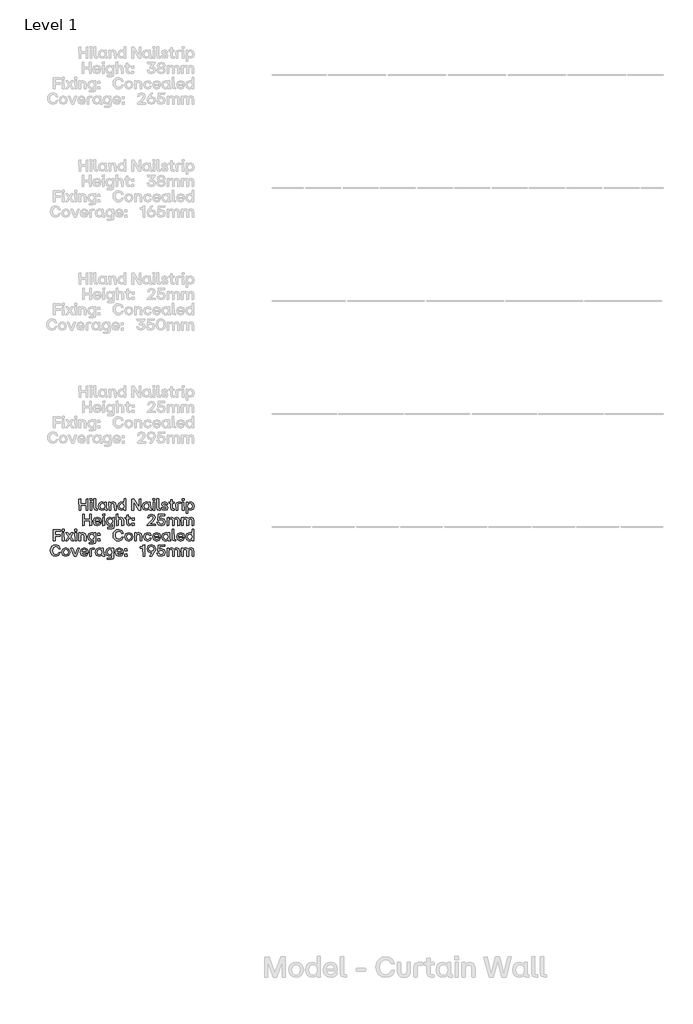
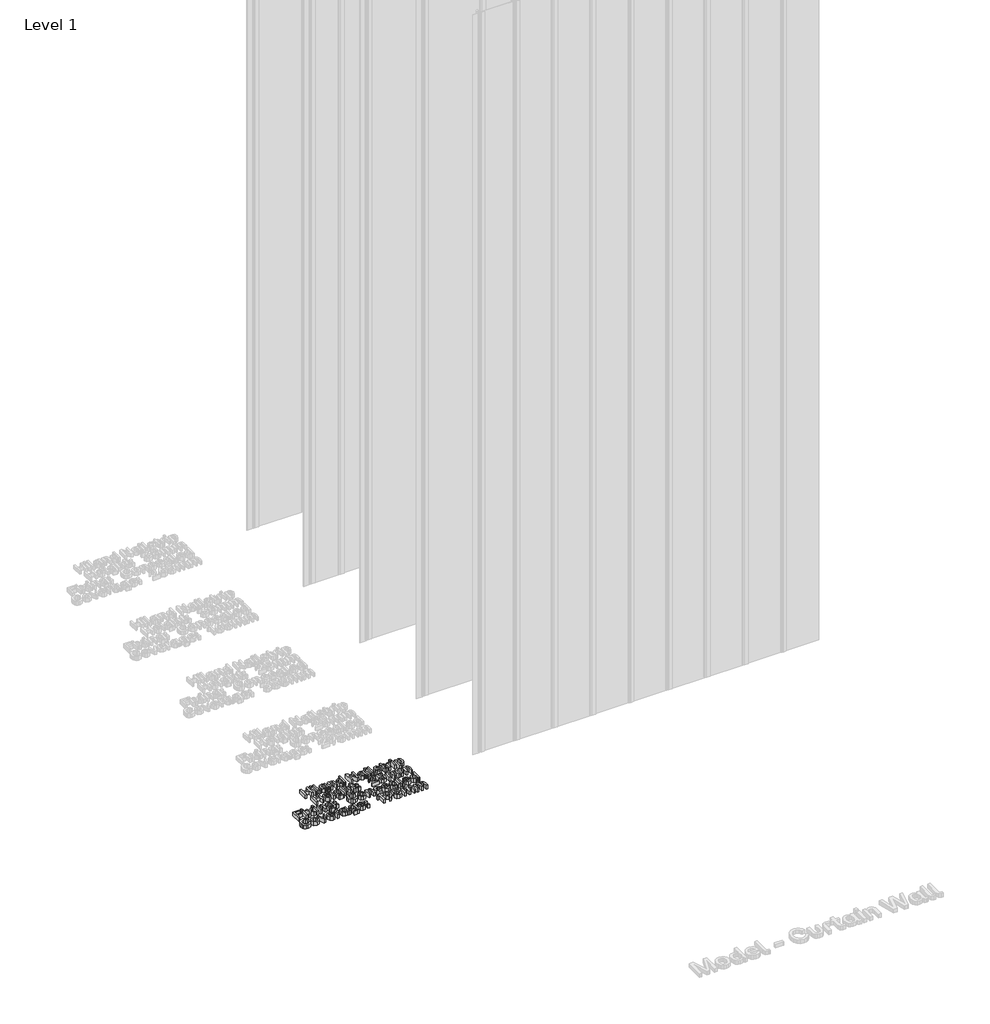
# One storey, part 10 of 64: 1 proxy.
"""IFC4 building model written with IfcOpenShell, lengths in millimetres."""

from ifc_helpers import new_model, si_unit, origin, origin_with_axes, place, context, project, spatial, polyline, outline, extrude, element, save

model = new_model("IFC4")

# Units and contexts
model_context = context("Model", 3, world=origin())
ifc_project = project(units=[si_unit("LENGTHUNIT", "METRE", prefix="MILLI")], contexts=[model_context])

# Site, building, storey
site = spatial("IfcSite", under=ifc_project)
building = spatial("IfcBuilding", under=site)
storey = spatial("IfcBuildingStorey", under=building, Name="Level 1", Elevation=0.0)

# Proxy
placement = place(None, origin())
element("IfcBuildingElementProxy", 1, Name="50mm", ObjectType="50mm", at=placement, inside=storey, context=model_context, shape_type="SweptSolid", body=[
    extrude(outline(polyline([(-779.9316481, -4433.5188866), (-780.6289799, -4411.5808277), (-804.4777279, -4411.5808277), (-804.4777279, -4432.8215548), (-811.9810183, -4433.5188866), (-812.7062434, -4384.2454206), (-805.2168997, -4383.5201955), (-804.4777279, -4404.6075096), (-780.6289799, -4404.6075096), (-780.6289799, -4384.2454206), (-773.1396362, -4383.5201955), (-772.4423044, -4432.8215548), (-779.9316481, -4433.5188866)])), origin_with_axes(), (0.0, 0.0, 1.0), 20.0),
    extrude(outline(polyline([(-762.3449397, -4433.5188866), (-763.0701648, -4397.8154977), (-755.8597538, -4397.1181659), (-755.162422, -4432.8215548), (-762.3449397, -4433.5188866)])), origin_with_axes(), (0.0, 0.0, 1.0), 20.0),
    extrude(outline(polyline([(-763.2793643, -4390.4516737), (-763.6280302, -4382.4044646), (-755.2321552, -4381.6652929), (-754.4929835, -4390.1030078), (-763.2793643, -4390.4516737)])), origin_with_axes(), (0.0, 0.0, 1.0), 20.0),
    extrude(outline(polyline([(-735.7626509, -4433.5188866), (-743.4611942, -4430.8690257), (-746.1110551, -4423.1565359), (-746.1110551, -4382.8228637), (-738.9006441, -4382.083692), (-738.2033123, -4427.2429003), (-731.5368201, -4427.2429003), (-730.8394883, -4432.8215548), (-735.7626509, -4433.5188866)])), origin_with_axes(), (0.0, 0.0, 1.0), 20.0),
    extrude(outline(polyline([(-710.6726522, -4433.9372857), (-722.4436133, -4428.8955767), (-726.8228571, -4415.3882594), (-722.4436133, -4401.7484491), (-710.6726522, -4396.6579269), (-704.0549733, -4398.2617901), (-699.0690509, -4402.6549805), (-698.7482782, -4397.8154977), (-691.5657605, -4397.1181659), (-690.8405354, -4427.2429003), (-686.8936374, -4427.2429003), (-686.1963056, -4432.8215548), (-692.1933592, -4433.5188866), (-696.848049, -4432.2113895), (-698.3996123, -4428.288898), (-703.7551206, -4432.3334225), (-710.6726522, -4433.9372857)]), holes=[polyline([(-718.7617013, -4415.3882594), (-716.0072406, -4424.2792401), (-708.4830304, -4427.521833), (-701.1192064, -4424.2931867), (-698.4693455, -4415.3882594), (-701.1401263, -4406.392679), (-708.4830304, -4403.1152195), (-716.0072406, -4406.392679), (-718.7617013, -4415.3882594)])]), origin_with_axes(), (0.0, 0.0, 1.0), 20.0),
    extrude(outline(polyline([(-679.3345605, -4433.5188866), (-680.0597856, -4397.8154977), (-673.1980405, -4397.1181659), (-672.5007087, -4402.6549805), (-667.3369666, -4398.1571903), (-660.7158011, -4396.6579269), (-651.1553819, -4400.8419178), (-647.8430558, -4413.0870644), (-647.8430558, -4432.8215548), (-655.0674134, -4433.5188866), (-655.7926384, -4413.0870644), (-657.7451675, -4405.7092939), (-663.9165541, -4403.3941522), (-670.1437272, -4405.7441604), (-672.1520428, -4413.0870644), (-672.1520428, -4432.8215548), (-679.3345605, -4433.5188866)])), origin_with_axes(), (0.0, 0.0, 1.0), 20.0),
    extrude(outline(polyline([(-624.9845189, -4433.9372857), (-636.7554799, -4428.8955767), (-641.1347237, -4415.3882594), (-636.7554799, -4401.7484491), (-624.9845189, -4396.6579269), (-618.36684, -4398.2617901), (-613.3809175, -4402.6549805), (-613.0601448, -4382.8228637), (-605.8776272, -4382.083692), (-605.1524021, -4432.8215548), (-612.0141471, -4433.5188866), (-612.7114789, -4428.0099653), (-618.0669873, -4432.3334225), (-624.9845189, -4433.9372857)]), holes=[polyline([(-633.0735679, -4415.3882594), (-630.3191073, -4424.2792401), (-622.794897, -4427.521833), (-615.431073, -4424.2931867), (-612.7812121, -4415.3882594), (-615.451993, -4406.392679), (-622.794897, -4403.1152195), (-630.3191073, -4406.392679), (-633.0735679, -4415.3882594)])]), origin_with_axes(), (0.0, 0.0, 1.0), 20.0),
    extrude(outline(polyline([(-578.1238209, -4433.5188866), (-578.849046, -4384.2454206), (-569.992932, -4383.5201955), (-546.7020494, -4420.7856077), (-546.4231166, -4384.2454206), (-539.2127057, -4383.5201955), (-538.5153739, -4432.8215548), (-547.329648, -4433.5188866), (-570.6205306, -4396.2395278), (-570.8994633, -4432.8215548), (-578.1238209, -4433.5188866)])), origin_with_axes(), (0.0, 0.0, 1.0), 20.0),
    extrude(outline(polyline([(-515.196598, -4433.9372857), (-526.967559, -4428.8955767), (-531.3468028, -4415.3882594), (-526.967559, -4401.7484491), (-515.196598, -4396.6579269), (-508.5789191, -4398.2617901), (-503.5929966, -4402.6549805), (-503.272224, -4397.8154977), (-496.0897063, -4397.1181659), (-495.3644812, -4427.2429003), (-491.4175831, -4427.2429003), (-490.7202513, -4432.8215548), (-496.7173049, -4433.5188866), (-501.3719948, -4432.2113895), (-502.923558, -4428.288898), (-508.2790664, -4432.3334225), (-515.196598, -4433.9372857)]), holes=[polyline([(-523.285647, -4415.3882594), (-520.5311864, -4424.2792401), (-513.0069761, -4427.521833), (-505.6431521, -4424.2931867), (-502.9932912, -4415.3882594), (-505.6640721, -4406.392679), (-513.0069761, -4403.1152195), (-520.5311864, -4406.392679), (-523.285647, -4415.3882594)])]), origin_with_axes(), (0.0, 0.0, 1.0), 20.0),
    extrude(outline(polyline([(-484.7929309, -4390.4516737), (-485.1415968, -4382.4044646), (-476.7457217, -4381.6652929), (-476.00655, -4390.1030078), (-484.7929309, -4390.4516737)])), origin_with_axes(), (0.0, 0.0, 1.0), 20.0),
    extrude(outline(polyline([(-483.8585062, -4433.5188866), (-484.5837313, -4397.8154977), (-477.3733204, -4397.1181659), (-476.6759885, -4432.8215548), (-483.8585062, -4433.5188866)])), origin_with_axes(), (0.0, 0.0, 1.0), 20.0),
    extrude(outline(polyline([(-457.2762175, -4433.5188866), (-464.9747607, -4430.8690257), (-467.6246216, -4423.1565359), (-467.6246216, -4382.8228637), (-460.4142106, -4382.083692), (-459.7168788, -4427.2429003), (-453.0503867, -4427.2429003), (-452.3530549, -4432.8215548), (-457.2762175, -4433.5188866)])), origin_with_axes(), (0.0, 0.0, 1.0), 20.0),
    extrude(outline(polyline([(-432.716191, -4433.9372857), (-443.4481276, -4430.9875721), (-447.9180245, -4422.5289372), (-440.9725996, -4421.7339789), (-437.890393, -4426.5455685), (-432.716191, -4427.8007657), (-428.2532673, -4426.6153017), (-426.579671, -4423.4354686), (-427.7790817, -4420.5764081), (-431.8375529, -4419.0841181), (-436.9280751, -4418.1775867), (-444.6545116, -4414.6351411), (-447.1509595, -4407.5363032), (-443.4899675, -4399.6215871), (-433.6227223, -4396.6579269), (-423.9298101, -4399.4123876), (-419.7039793, -4407.2294772), (-426.6494042, -4408.0244355), (-429.3968915, -4403.8613645), (-433.6227223, -4402.7944469), (-437.8764464, -4403.8962311), (-439.3408432, -4407.0900108), (-438.2948455, -4409.8584181), (-434.4874138, -4411.3716282), (-429.0482256, -4412.3897326), (-421.0358831, -4415.8763917), (-418.7695547, -4423.0170695), (-422.3956801, -4431.1130919), (-432.716191, -4433.9372857)])), origin_with_axes(), (0.0, 0.0, 1.0), 20.0),
    extrude(outline(polyline([(-396.9570155, -4433.5188866), (-404.6695054, -4430.8690257), (-407.3193663, -4423.1565359), (-407.3193663, -4403.3941522), (-413.5256194, -4403.3941522), (-414.2508445, -4397.8154977), (-407.3193663, -4397.1181659), (-407.3193663, -4387.104481), (-400.0950087, -4386.3792559), (-399.3976769, -4397.1181659), (-390.611296, -4397.1181659), (-389.8860709, -4402.6549805), (-399.3976769, -4403.3941522), (-399.3976769, -4427.2429003), (-390.611296, -4427.2429003), (-389.8860709, -4432.8215548), (-396.9570155, -4433.5188866)])), origin_with_axes(), (0.0, 0.0, 1.0), 20.0),
    extrude(outline(polyline([(-382.480407, -4433.5188866), (-383.1777388, -4407.4386768), (-380.5278779, -4399.7471068), (-372.8293347, -4397.1181659), (-362.6761835, -4397.1181659), (-361.9788517, -4403.1152195), (-375.2699961, -4403.8125513), (-375.2699961, -4432.8215548), (-382.480407, -4433.5188866)])), origin_with_axes(), (0.0, 0.0, 1.0), 20.0),
    extrude(outline(polyline([(-354.4337214, -4433.5188866), (-355.1589465, -4397.8154977), (-347.9485356, -4397.1181659), (-347.2512038, -4432.8215548), (-354.4337214, -4433.5188866)])), origin_with_axes(), (0.0, 0.0, 1.0), 20.0),
    extrude(outline(polyline([(-355.3681461, -4390.4516737), (-355.716812, -4382.4044646), (-347.3209369, -4381.6652929), (-346.5817652, -4390.1030078), (-355.3681461, -4390.4516737)])), origin_with_axes(), (0.0, 0.0, 1.0), 20.0),
    extrude(outline(polyline([(-337.4746117, -4447.0750171), (-338.1998368, -4397.8154977), (-331.3380917, -4397.1181659), (-330.6407599, -4402.5852473), (-325.2852516, -4398.2617901), (-318.36772, -4396.6579269), (-306.596759, -4401.7135826), (-302.2175152, -4415.2487931), (-306.596759, -4428.8607101), (-318.36772, -4433.9372857), (-324.9853989, -4432.3334225), (-329.9713214, -4427.9402321), (-330.292094, -4446.3776853), (-337.4746117, -4447.0750171)]), holes=[polyline([(-330.5710268, -4415.2487931), (-327.9002459, -4424.2443735), (-320.5573419, -4427.521833), (-313.0331316, -4424.2443735), (-310.2786709, -4415.2487931), (-313.0331316, -4406.3578124), (-320.5573419, -4403.1152195), (-327.9211659, -4406.3368925), (-330.5710268, -4415.2487931)])]), origin_with_axes(), (0.0, 0.0, 1.0), 20.0),
    extrude(outline(polyline([(-763.8651231, -4501.3705811), (-764.5624549, -4479.4325222), (-788.4112029, -4479.4325222), (-788.4112029, -4500.6732493), (-795.9144933, -4501.3705811), (-796.6397184, -4452.0971151), (-789.1503747, -4451.37189), (-788.4112029, -4472.459204), (-764.5624549, -4472.459204), (-764.5624549, -4452.0971151), (-757.0731112, -4451.37189), (-756.3757794, -4500.6732493), (-763.8651231, -4501.3705811)])), origin_with_axes(), (0.0, 0.0, 1.0), 20.0),
    extrude(outline(polyline([(-730.7279152, -4501.7889802), (-744.1306327, -4496.7472711), (-749.1374751, -4483.2399539), (-744.1515527, -4469.586197), (-730.7279152, -4464.5096214), (-718.447902, -4469.5164638), (-713.9501118, -4483.1702207), (-713.9501118, -4485.0809099), (-741.0065862, -4485.8200816), (-737.9383262, -4492.8631329), (-730.7279152, -4495.3735275), (-724.9400612, -4494.0974102), (-721.9415344, -4490.520098), (-714.8566431, -4489.9343393), (-719.5148197, -4498.6998002), (-730.7279152, -4501.7889802)]), holes=[polyline([(-740.936853, -4480.0322275), (-721.7323348, -4480.0322275), (-724.3752224, -4473.3866554), (-730.7279152, -4470.966914), (-737.8197798, -4473.2681089), (-740.936853, -4480.0322275)])]), origin_with_axes(), (0.0, 0.0, 1.0), 20.0),
    extrude(outline(polyline([(-707.0465268, -4458.3033682), (-707.3951927, -4450.2561591), (-698.9993177, -4449.5169873), (-698.2601459, -4457.9547023), (-707.0465268, -4458.3033682)])), origin_with_axes(), (0.0, 0.0, 1.0), 20.0),
    extrude(outline(polyline([(-706.1121022, -4501.3705811), (-706.8373273, -4465.6671922), (-699.6269163, -4464.9698603), (-698.9295845, -4500.6732493), (-706.1121022, -4501.3705811)])), origin_with_axes(), (0.0, 0.0, 1.0), 20.0),
    extrude(outline(polyline([(-684.4390294, -4514.9267115), (-685.1782011, -4509.348057), (-663.937474, -4508.6507252), (-663.937474, -4495.7919266), (-669.2441691, -4500.185117), (-675.8618481, -4501.7889802), (-687.6328091, -4496.7124045), (-692.0120529, -4483.1004875), (-687.6328091, -4469.565277), (-675.8618481, -4464.5096214), (-668.9443165, -4466.1134845), (-663.8677409, -4470.4369418), (-663.5888081, -4465.6671922), (-656.7549563, -4464.9698603), (-656.0297313, -4504.9269733), (-658.609859, -4512.3675038), (-666.0294695, -4514.9267115), (-684.4390294, -4514.9267115)]), holes=[polyline([(-683.9508971, -4483.1004875), (-681.1964364, -4492.0960679), (-673.6722262, -4495.3735275), (-666.3293222, -4492.0960679), (-663.6585413, -4483.1004875), (-666.3084022, -4474.1885869), (-673.6722262, -4470.966914), (-681.1964364, -4474.2095069), (-683.9508971, -4483.1004875)])]), origin_with_axes(), (0.0, 0.0, 1.0), 20.0),
    extrude(outline(polyline([(-646.3089258, -4501.3705811), (-647.0341508, -4450.6745581), (-639.8237399, -4449.9353864), (-639.1264081, -4470.2277422), (-634.0393725, -4465.9391516), (-627.6901663, -4464.5096214), (-618.1297471, -4468.6936122), (-614.817421, -4480.9387589), (-614.817421, -4500.6732493), (-622.0417786, -4501.3705811), (-622.7670037, -4480.9387589), (-624.7195328, -4473.5609883), (-630.8909193, -4471.2458467), (-637.1180924, -4473.5958549), (-639.1264081, -4480.9387589), (-639.1264081, -4500.6732493), (-646.3089258, -4501.3705811)])), origin_with_axes(), (0.0, 0.0, 1.0), 20.0),
    extrude(outline(polyline([(-591.540485, -4501.3705811), (-599.2529749, -4498.7207202), (-601.9028358, -4491.0082303), (-601.9028358, -4471.2458467), (-608.109089, -4471.2458467), (-608.834314, -4465.6671922), (-601.9028358, -4464.9698603), (-601.9028358, -4454.9561755), (-594.6784782, -4454.2309504), (-593.9811464, -4464.9698603), (-585.1947655, -4464.9698603), (-584.4695404, -4470.506675), (-593.9811464, -4471.2458467), (-593.9811464, -4495.0945947), (-585.1947655, -4495.0945947), (-584.4695404, -4500.6732493), (-591.540485, -4501.3705811)])), origin_with_axes(), (0.0, 0.0, 1.0), 20.0),
    extrude(outline(polyline([(-577.0638766, -4477.7310326), (-577.7612084, -4468.1078535), (-568.2774957, -4467.3686818), (-567.5522706, -4477.0337007), (-577.0638766, -4477.7310326)])), origin_with_axes(), (0.0, 0.0, 1.0), 20.0),
    extrude(outline(polyline([(-577.4125425, -4501.0219152), (-577.7612084, -4491.747402), (-568.2774957, -4491.0082303), (-567.5522706, -4500.6732493), (-577.4125425, -4501.0219152)])), origin_with_axes(), (0.0, 0.0, 1.0), 20.0),
    extrude(outline(polyline([(-509.5761036, -4501.3705811), (-510.3013286, -4496.5868848), (-492.9377665, -4480.590093), (-485.7901154, -4472.6753769), (-483.8027197, -4465.3882594), (-485.783142, -4459.7084918), (-491.7244091, -4457.8152359), (-498.5931275, -4459.8932847), (-501.4452146, -4466.4621504), (-508.8787717, -4467.1594822), (-504.2903284, -4454.9631488), (-491.7244091, -4450.9534909), (-479.8976615, -4454.8236824), (-475.5742043, -4465.3882594), (-478.2589318, -4475.1648515), (-487.4288451, -4485.5690422), (-496.8846645, -4494.0764903), (-474.1516474, -4494.355423), (-473.4543156, -4500.6732493), (-509.5761036, -4501.3705811)])), origin_with_axes(), (0.0, 0.0, 1.0), 20.0),
    extrude(outline(polyline([(-448.1969572, -4501.7889802), (-461.3974485, -4498.0931215), (-467.2062225, -4487.3821049), (-459.8423985, -4486.5871466), (-455.634001, -4493.0200326), (-448.1969572, -4494.9551284), (-440.7912934, -4492.2704009), (-438.197219, -4484.6625108), (-440.7773467, -4477.3614467), (-448.3364236, -4474.8719721), (-458.6987744, -4478.8049235), (-463.5382572, -4478.5259908), (-462.4922594, -4452.0971151), (-432.8556573, -4451.37189), (-432.1304322, -4457.6757696), (-455.8397139, -4458.3731014), (-456.6346722, -4471.0366471), (-451.4604701, -4468.8400519), (-445.7562959, -4468.0381203), (-434.2015077, -4472.4661774), (-429.9965969, -4484.6625108), (-434.8081864, -4497.27027), (-448.1969572, -4501.7889802)])), origin_with_axes(), (0.0, 0.0, 1.0), 20.0),
    extrude(outline(polyline([(-421.3775756, -4501.3705811), (-422.1028007, -4465.6671922), (-415.2410557, -4464.9698603), (-414.5437239, -4470.506675), (-409.5578014, -4466.0088848), (-403.1074821, -4464.5096214), (-396.8210358, -4466.0088848), (-392.605665, -4470.506675), (-386.7829443, -4466.0646713), (-379.5376668, -4464.5096214), (-370.2631536, -4468.6796656), (-367.0554273, -4480.9387589), (-367.0554273, -4500.6732493), (-374.2658383, -4501.3705811), (-374.9631701, -4480.9387589), (-376.845966, -4473.5609883), (-382.8151263, -4471.2458467), (-388.7215268, -4473.5958549), (-390.6252426, -4480.9387589), (-390.6252426, -4500.6732493), (-397.8356536, -4501.3705811), (-398.5329854, -4480.9387589), (-400.4018347, -4473.5609883), (-406.3152085, -4471.2458467), (-412.2913421, -4473.5958549), (-414.195058, -4480.9387589), (-414.195058, -4500.6732493), (-421.3775756, -4501.3705811)])), origin_with_axes(), (0.0, 0.0, 1.0), 20.0),
    extrude(outline(polyline([(-358.0040603, -4501.3705811), (-358.7292854, -4465.6671922), (-351.8675404, -4464.9698603), (-351.1702086, -4470.506675), (-346.1842861, -4466.0088848), (-339.7339668, -4464.5096214), (-333.4475205, -4466.0088848), (-329.2321497, -4470.506675), (-323.409429, -4466.0646713), (-316.1641515, -4464.5096214), (-306.8896383, -4468.6796656), (-303.681912, -4480.9387589), (-303.681912, -4500.6732493), (-310.8923229, -4501.3705811), (-311.5896548, -4480.9387589), (-313.4724507, -4473.5609883), (-319.441611, -4471.2458467), (-325.3480115, -4473.5958549), (-327.2517273, -4480.9387589), (-327.2517273, -4500.6732493), (-334.4621383, -4501.3705811), (-335.1594701, -4480.9387589), (-337.0283194, -4473.5609883), (-342.9416931, -4471.2458467), (-348.9178268, -4473.5958549), (-350.8215426, -4480.9387589), (-350.8215426, -4500.6732493), (-358.0040603, -4501.3705811)])), origin_with_axes(), (0.0, 0.0, 1.0), 20.0),
    extrude(outline(polyline([(-925.3392781, -4569.2222755), (-926.0645031, -4519.9488095), (-894.4753719, -4519.2235844), (-893.7780401, -4525.527464), (-917.8359877, -4526.2247958), (-917.8359877, -4541.287163), (-895.9118755, -4541.287163), (-895.2145437, -4547.5631494), (-917.8359877, -4548.3023211), (-917.8359877, -4568.5249437), (-925.3392781, -4569.2222755)])), origin_with_axes(), (0.0, 0.0, 1.0), 20.0),
    extrude(outline(polyline([(-885.5216314, -4569.2222755), (-886.2468565, -4533.5188866), (-879.0364456, -4532.8215548), (-878.3391137, -4568.5249437), (-885.5216314, -4569.2222755)])), origin_with_axes(), (0.0, 0.0, 1.0), 20.0),
    extrude(outline(polyline([(-886.4560561, -4526.1550627), (-886.804722, -4518.1078535), (-878.4088469, -4517.3686818), (-877.6696752, -4525.8063967), (-886.4560561, -4526.1550627)])), origin_with_axes(), (0.0, 0.0, 1.0), 20.0),
    extrude(outline(polyline([(-871.4215821, -4569.2222755), (-858.6604099, -4550.7429824), (-870.8637167, -4533.658353), (-862.8722941, -4532.8215548), (-854.0859132, -4544.815662), (-845.8573978, -4533.2399539), (-837.7404555, -4532.8215548), (-849.3440569, -4549.9340775), (-836.303952, -4568.3436374), (-844.2953746, -4569.2222755), (-854.0161801, -4555.7916648), (-863.2906932, -4568.8038764), (-871.4215821, -4569.2222755)])), origin_with_axes(), (0.0, 0.0, 1.0), 20.0),
    extrude(outline(polyline([(-829.2887939, -4569.2222755), (-830.014019, -4533.5188866), (-822.803608, -4532.8215548), (-822.1062762, -4568.5249437), (-829.2887939, -4569.2222755)])), origin_with_axes(), (0.0, 0.0, 1.0), 20.0),
    extrude(outline(polyline([(-830.2232185, -4526.1550627), (-830.5718844, -4518.1078535), (-822.1760094, -4517.3686818), (-821.4368377, -4525.8063967), (-830.2232185, -4526.1550627)])), origin_with_axes(), (0.0, 0.0, 1.0), 20.0),
    extrude(outline(polyline([(-812.3296842, -4569.2222755), (-813.0549093, -4533.5188866), (-806.1931642, -4532.8215548), (-805.4958324, -4538.3583694), (-800.3320903, -4533.8605792), (-793.7109247, -4532.3613158), (-784.1505056, -4536.5453067), (-780.8381794, -4548.7904534), (-780.8381794, -4568.5249437), (-788.062537, -4569.2222755), (-788.7877621, -4548.7904534), (-790.7402912, -4541.4126828), (-796.9116778, -4539.0975411), (-803.1388509, -4541.4475493), (-805.1471665, -4548.7904534), (-805.1471665, -4568.5249437), (-812.3296842, -4569.2222755)])), origin_with_axes(), (0.0, 0.0, 1.0), 20.0),
    extrude(outline(polyline([(-766.5568239, -4582.778406), (-767.2959956, -4577.1997515), (-746.0552685, -4576.5024197), (-746.0552685, -4563.643621), (-751.3619636, -4568.0368114), (-757.9796426, -4569.6406746), (-769.7506036, -4564.564099), (-774.1298474, -4550.952182), (-769.7506036, -4537.4169715), (-757.9796426, -4532.3613158), (-751.0621109, -4533.965179), (-745.9855353, -4538.2886362), (-745.7066026, -4533.5188866), (-738.8727508, -4532.8215548), (-738.1475257, -4572.7786678), (-740.7276535, -4580.2191982), (-748.147264, -4582.778406), (-766.5568239, -4582.778406)]), holes=[polyline([(-766.0686916, -4550.952182), (-763.3142309, -4559.9477624), (-755.7900207, -4563.2252219), (-748.4471166, -4559.9477624), (-745.7763358, -4550.952182), (-748.4261967, -4542.0402814), (-755.7900207, -4538.8186084), (-763.3142309, -4542.0612013), (-766.0686916, -4550.952182)])]), origin_with_axes(), (0.0, 0.0, 1.0), 20.0),
    extrude(outline(polyline([(-728.8032794, -4545.582727), (-729.5006112, -4535.959548), (-720.0168986, -4535.2203762), (-719.2916735, -4544.8853952), (-728.8032794, -4545.582727)])), origin_with_axes(), (0.0, 0.0, 1.0), 20.0),
    extrude(outline(polyline([(-729.1519453, -4568.8736096), (-729.5006112, -4559.5990965), (-720.0168986, -4558.8599248), (-719.2916735, -4568.5249437), (-729.1519453, -4568.8736096)])), origin_with_axes(), (0.0, 0.0, 1.0), 20.0),
    extrude(outline(polyline([(-637.0483593, -4569.6406746), (-647.0550708, -4567.9269817), (-654.7605874, -4562.7859029), (-659.6767766, -4554.7160305), (-661.3155064, -4544.2159567), (-659.66283, -4533.8919591), (-654.7048008, -4525.7924501), (-646.9853376, -4520.5520015), (-637.0483593, -4518.8051853), (-622.8716035, -4523.4215219), (-615.9192053, -4535.7085085), (-623.2411893, -4536.5174134), (-628.4049314, -4528.3272513), (-637.0483593, -4525.8063967), (-648.7077472, -4530.743506), (-652.9475246, -4544.2159567), (-648.7286672, -4557.7999804), (-637.0483593, -4562.6673565), (-628.2340851, -4560.1813685), (-623.5480153, -4552.7234048), (-616.1284048, -4552.0679129), (-622.5926707, -4565.0382846), (-637.0483593, -4569.6406746)])), origin_with_axes(), (0.0, 0.0, 1.0), 20.0),
    extrude(outline(polyline([(-591.693898, -4569.6406746), (-604.8525494, -4564.5152858), (-609.8942584, -4551.0916483), (-604.8386027, -4537.5564378), (-591.693898, -4532.3613158), (-578.4236736, -4537.5564378), (-573.3540713, -4551.0916483), (-578.4236736, -4564.5152858), (-591.693898, -4569.6406746)]), holes=[polyline([(-601.8331026, -4551.0916483), (-599.1344285, -4559.9965756), (-591.693898, -4563.2252219), (-584.1557411, -4559.982629), (-581.4012805, -4551.0916483), (-584.1417945, -4542.0960679), (-591.693898, -4538.8186084), (-599.1344285, -4542.0960679), (-601.8331026, -4551.0916483)])]), origin_with_axes(), (0.0, 0.0, 1.0), 20.0),
    extrude(outline(polyline([(-565.083716, -4569.2222755), (-565.8089411, -4533.5188866), (-558.947196, -4532.8215548), (-558.2498642, -4538.3583694), (-553.0861221, -4533.8605792), (-546.4649565, -4532.3613158), (-536.9045374, -4536.5453067), (-533.5922113, -4548.7904534), (-533.5922113, -4568.5249437), (-540.8165689, -4569.2222755), (-541.5417939, -4548.7904534), (-543.494323, -4541.4126828), (-549.6657096, -4539.0975411), (-555.8928827, -4541.4475493), (-557.9011983, -4548.7904534), (-557.9011983, -4568.5249437), (-565.083716, -4569.2222755)])), origin_with_axes(), (0.0, 0.0, 1.0), 20.0),
    extrude(outline(polyline([(-508.5440525, -4569.6406746), (-521.8770368, -4564.5989656), (-526.8838792, -4551.0916483), (-521.8073036, -4537.5564378), (-508.5440525, -4532.3613158), (-497.4704233, -4535.7991616), (-492.2543813, -4544.8853952), (-499.2695393, -4545.6524602), (-502.8398782, -4540.3527384), (-508.5440525, -4538.8186084), (-516.1031293, -4542.0960679), (-518.8227234, -4551.0916483), (-516.0891827, -4560.0174956), (-508.5440525, -4563.2252219), (-502.6655453, -4561.7608251), (-499.6879384, -4557.0189688), (-492.6030472, -4556.3495302), (-497.2612237, -4566.2028288), (-508.5440525, -4569.6406746)])), origin_with_axes(), (0.0, 0.0, 1.0), 20.0),
    extrude(outline(polyline([(-468.3080068, -4569.6406746), (-481.7107242, -4564.5989656), (-486.7175667, -4551.0916483), (-481.7316442, -4537.4378914), (-468.3080068, -4532.3613158), (-456.0279935, -4537.3681582), (-451.5302033, -4551.0219152), (-451.5302033, -4552.9326043), (-478.5866777, -4553.6717761), (-475.5184177, -4560.7148274), (-468.3080068, -4563.2252219), (-462.5201527, -4561.9491047), (-459.5216259, -4558.3717925), (-452.4367347, -4557.7860338), (-457.0949112, -4566.5514947), (-468.3080068, -4569.6406746)]), holes=[polyline([(-478.5169445, -4547.883922), (-459.3124264, -4547.883922), (-461.9553139, -4541.2383498), (-468.3080068, -4538.8186084), (-475.3998713, -4541.1198034), (-478.5169445, -4547.883922)])]), origin_with_axes(), (0.0, 0.0, 1.0), 20.0),
    extrude(outline(polyline([(-430.4010493, -4569.6406746), (-442.1720104, -4564.5989656), (-446.5512542, -4551.0916483), (-442.1720104, -4537.4518381), (-430.4010493, -4532.3613158), (-423.7833704, -4533.965179), (-418.7974479, -4538.3583694), (-418.4766753, -4533.5188866), (-411.2941576, -4532.8215548), (-410.5689325, -4562.9462892), (-406.6220345, -4562.9462892), (-405.9247026, -4568.5249437), (-411.9217562, -4569.2222755), (-416.5764461, -4567.9147784), (-418.1280094, -4563.9922869), (-423.4835177, -4568.0368114), (-430.4010493, -4569.6406746)]), holes=[polyline([(-438.4900984, -4551.0916483), (-435.7356377, -4559.982629), (-428.2114274, -4563.2252219), (-420.8476035, -4559.9965756), (-418.1977426, -4551.0916483), (-420.8685234, -4542.0960679), (-428.2114274, -4538.8186084), (-435.7356377, -4542.0960679), (-438.4900984, -4551.0916483)])]), origin_with_axes(), (0.0, 0.0, 1.0), 20.0),
    extrude(outline(polyline([(-389.4397785, -4569.2222755), (-397.1383218, -4566.5724146), (-399.7881827, -4558.8599248), (-399.7881827, -4518.5262526), (-392.5777717, -4517.7870809), (-391.8804399, -4562.9462892), (-385.2139477, -4562.9462892), (-384.5166159, -4568.5249437), (-389.4397785, -4569.2222755)])), origin_with_axes(), (0.0, 0.0, 1.0), 20.0),
    extrude(outline(polyline([(-362.0904248, -4569.6406746), (-375.4931422, -4564.5989656), (-380.4999847, -4551.0916483), (-375.5140622, -4537.4378914), (-362.0904248, -4532.3613158), (-349.8104115, -4537.3681582), (-345.3126213, -4551.0219152), (-345.3126213, -4552.9326043), (-372.3690957, -4553.6717761), (-369.3008357, -4560.7148274), (-362.0904248, -4563.2252219), (-356.3025707, -4561.9491047), (-353.3040439, -4558.3717925), (-346.2191527, -4557.7860338), (-350.8773292, -4566.5514947), (-362.0904248, -4569.6406746)]), holes=[polyline([(-372.2993625, -4547.883922), (-353.0948444, -4547.883922), (-355.7377319, -4541.2383498), (-362.0904248, -4538.8186084), (-369.1822893, -4541.1198034), (-372.2993625, -4547.883922)])]), origin_with_axes(), (0.0, 0.0, 1.0), 20.0),
    extrude(outline(polyline([(-324.1834673, -4569.6406746), (-335.9544284, -4564.5989656), (-340.3336722, -4551.0916483), (-335.9544284, -4537.4518381), (-324.1834673, -4532.3613158), (-317.5657884, -4533.965179), (-312.5798659, -4538.3583694), (-312.2590933, -4518.5262526), (-305.0765756, -4517.7870809), (-304.3513505, -4568.5249437), (-311.2130956, -4569.2222755), (-311.9104274, -4563.7133542), (-317.2659357, -4568.0368114), (-324.1834673, -4569.6406746)]), holes=[polyline([(-332.2725164, -4551.0916483), (-329.5180557, -4559.982629), (-321.9938454, -4563.2252219), (-314.6300215, -4559.9965756), (-311.9801606, -4551.0916483), (-314.6509414, -4542.0960679), (-321.9938454, -4538.8186084), (-329.5180557, -4542.0960679), (-332.2725164, -4551.0916483)])]), origin_with_axes(), (0.0, 0.0, 1.0), 20.0),
    extrude(outline(polyline([(-915.5347927, -4637.4923691), (-925.5415043, -4635.7786761), (-933.2470208, -4630.6375973), (-938.1632101, -4622.5677249), (-939.8019399, -4612.0676511), (-938.1492635, -4601.7436536), (-933.1912343, -4593.6441446), (-925.4717711, -4588.403696), (-915.5347927, -4586.6568798), (-901.3580369, -4591.2732164), (-894.4056388, -4603.560203), (-901.7276228, -4604.3691079), (-906.8913649, -4596.1789457), (-915.5347927, -4593.6580912), (-927.1941807, -4598.5952004), (-931.4339581, -4612.0676511), (-927.2151006, -4625.6516749), (-915.5347927, -4630.5190509), (-906.7205186, -4628.033063), (-902.0344488, -4620.5750992), (-894.6148383, -4619.9196073), (-901.0791042, -4632.8899791), (-915.5347927, -4637.4923691)])), origin_with_axes(), (0.0, 0.0, 1.0), 20.0),
    extrude(outline(polyline([(-870.1803315, -4637.4923691), (-883.3389829, -4632.3669802), (-888.3806919, -4618.9433428), (-883.3250362, -4605.4081323), (-870.1803315, -4600.2130103), (-856.9101071, -4605.4081323), (-851.8405048, -4618.9433428), (-856.9101071, -4632.3669802), (-870.1803315, -4637.4923691)]), holes=[polyline([(-880.3195361, -4618.9433428), (-877.620862, -4627.8482701), (-870.1803315, -4631.0769164), (-862.6421746, -4627.8343234), (-859.8877139, -4618.9433428), (-862.628228, -4609.9477624), (-870.1803315, -4606.6703029), (-877.620862, -4609.9477624), (-880.3195361, -4618.9433428)])]), origin_with_axes(), (0.0, 0.0, 1.0), 20.0),
    extrude(outline(polyline([(-833.7377709, -4637.07397), (-848.1306995, -4601.5100474), (-840.8784487, -4600.6732493), (-829.4422069, -4630.5887841), (-818.6056705, -4601.2311147), (-811.2418465, -4600.6732493), (-824.3516847, -4636.5161045), (-833.7377709, -4637.07397)])), origin_with_axes(), (0.0, 0.0, 1.0), 20.0),
    extrude(outline(polyline([(-788.7459222, -4637.4923691), (-802.1486397, -4632.45066), (-807.1554821, -4618.9433428), (-802.1695596, -4605.2895859), (-788.7459222, -4600.2130103), (-776.465909, -4605.2198527), (-771.9681188, -4618.8736096), (-771.9681188, -4620.7842988), (-799.0245932, -4621.5234705), (-795.9563332, -4628.5665218), (-788.7459222, -4631.0769164), (-782.9580681, -4629.8007992), (-779.9595413, -4626.2234869), (-772.8746501, -4625.6377282), (-777.5328266, -4634.4031891), (-788.7459222, -4637.4923691)]), holes=[polyline([(-798.95486, -4615.7356165), (-779.7503418, -4615.7356165), (-782.3932294, -4609.0900443), (-788.7459222, -4606.6703029), (-795.8377868, -4608.9714978), (-798.95486, -4615.7356165)])]), origin_with_axes(), (0.0, 0.0, 1.0), 20.0),
    extrude(outline(polyline([(-764.5066683, -4637.07397), (-765.2040001, -4610.9937601), (-762.5541393, -4603.3021902), (-754.855596, -4600.6732493), (-744.7024448, -4600.6732493), (-744.005113, -4606.6703029), (-757.2962574, -4607.3676347), (-757.2962574, -4636.3766382), (-764.5066683, -4637.07397)])), origin_with_axes(), (0.0, 0.0, 1.0), 20.0),
    extrude(outline(polyline([(-723.1688384, -4637.4923691), (-734.9397994, -4632.45066), (-739.3190432, -4618.9433428), (-734.9397994, -4605.3035325), (-723.1688384, -4600.2130103), (-716.5511594, -4601.8168734), (-711.565237, -4606.2100639), (-711.2444643, -4601.3705811), (-704.0619466, -4600.6732493), (-703.3367216, -4630.7979836), (-699.3898235, -4630.7979836), (-698.6924917, -4636.3766382), (-704.6895453, -4637.07397), (-709.3442351, -4635.7664728), (-710.8957984, -4631.8439814), (-716.2513068, -4635.8885059), (-723.1688384, -4637.4923691)]), holes=[polyline([(-731.2578874, -4618.9433428), (-728.5034267, -4627.8343234), (-720.9792165, -4631.0769164), (-713.6153925, -4627.8482701), (-710.9655316, -4618.9433428), (-713.6363125, -4609.9477624), (-720.9792165, -4606.6703029), (-728.5034267, -4609.9477624), (-731.2578874, -4618.9433428)])]), origin_with_axes(), (0.0, 0.0, 1.0), 20.0),
    extrude(outline(polyline([(-687.1167836, -4650.6301005), (-687.8559553, -4645.0514459), (-666.6152282, -4644.3541141), (-666.6152282, -4631.4953155), (-671.9219233, -4635.8885059), (-678.5396022, -4637.4923691), (-690.3105633, -4632.4157935), (-694.6898071, -4618.8038764), (-690.3105633, -4605.2686659), (-678.5396022, -4600.2130103), (-671.6220706, -4601.8168734), (-666.545495, -4606.1403307), (-666.2665623, -4601.3705811), (-659.4327105, -4600.6732493), (-658.7074854, -4640.6303622), (-661.2876131, -4648.0708927), (-668.7072236, -4650.6301005), (-687.1167836, -4650.6301005)]), holes=[polyline([(-686.6286513, -4618.8038764), (-683.8741906, -4627.7994568), (-676.3499803, -4631.0769164), (-669.0070763, -4627.7994568), (-666.3362955, -4618.8038764), (-668.9861564, -4609.8919758), (-676.3499803, -4606.6703029), (-683.8741906, -4609.9128958), (-686.6286513, -4618.8038764)])]), origin_with_axes(), (0.0, 0.0, 1.0), 20.0),
    extrude(outline(polyline([(-633.4361805, -4637.4923691), (-646.8388979, -4632.45066), (-651.8457404, -4618.9433428), (-646.8598179, -4605.2895859), (-633.4361805, -4600.2130103), (-621.1561672, -4605.2198527), (-616.658377, -4618.8736096), (-616.658377, -4620.7842988), (-643.7148514, -4621.5234705), (-640.6465914, -4628.5665218), (-633.4361805, -4631.0769164), (-627.6483264, -4629.8007992), (-624.6497996, -4626.2234869), (-617.5649084, -4625.6377282), (-622.2230849, -4634.4031891), (-633.4361805, -4637.4923691)]), holes=[polyline([(-643.6451182, -4615.7356165), (-624.4406001, -4615.7356165), (-627.0834876, -4609.0900443), (-633.4361805, -4606.6703029), (-640.528045, -4608.9714978), (-643.6451182, -4615.7356165)])]), origin_with_axes(), (0.0, 0.0, 1.0), 20.0),
    extrude(outline(polyline([(-609.1969266, -4613.4344215), (-609.8942584, -4603.8112424), (-600.4105457, -4603.0720707), (-599.6853206, -4612.7370896), (-609.1969266, -4613.4344215)])), origin_with_axes(), (0.0, 0.0, 1.0), 20.0),
    extrude(outline(polyline([(-609.5455925, -4636.7253041), (-609.8942584, -4627.4507909), (-600.4105457, -4626.7116192), (-599.6853206, -4636.3766382), (-609.5455925, -4636.7253041)])), origin_with_axes(), (0.0, 0.0, 1.0), 20.0),
    extrude(outline(polyline([(-528.8364083, -4637.07397), (-529.57558, -4602.0679129), (-540.6213159, -4602.0679129), (-541.3604877, -4595.7919266), (-529.2269141, -4595.0945947), (-529.2269141, -4587.800504), (-521.9328233, -4587.0752789), (-521.2075982, -4636.3766382), (-528.8364083, -4637.07397)])), origin_with_axes(), (0.0, 0.0, 1.0), 20.0),
    extrude(outline(polyline([(-506.3544306, -4591.1895366), (-492.4217409, -4586.6568798), (-478.5099712, -4591.1895366), (-473.5240487, -4603.8112424), (-475.2673783, -4612.5069701), (-480.8181395, -4622.3602687), (-490.8597177, -4636.6555709), (-499.1579662, -4637.07397), (-487.7914577, -4619.3617419), (-494.8624023, -4620.7842988), (-506.8425628, -4616.1470422), (-511.361273, -4603.8112424), (-506.3544306, -4591.1895366)]), holes=[polyline([(-500.3713236, -4596.2103256), (-503.1606509, -4603.8042691), (-500.3713236, -4611.4051859), (-492.4217409, -4614.0899134), (-484.597678, -4611.3912392), (-481.7246709, -4603.8112424), (-484.4930782, -4596.2033523), (-492.4217409, -4593.5186248), (-500.3713236, -4596.2103256)])]), origin_with_axes(), (0.0, 0.0, 1.0), 20.0),
    extrude(outline(polyline([(-448.1969572, -4637.4923691), (-461.3974485, -4633.7965104), (-467.2062225, -4623.0854938), (-459.8423985, -4622.2905355), (-455.634001, -4628.7234215), (-448.1969572, -4630.6585173), (-440.7912934, -4627.9737898), (-438.197219, -4620.3658997), (-440.7773467, -4613.0648356), (-448.3364236, -4610.575361), (-458.6987744, -4614.5083125), (-463.5382572, -4614.2293797), (-462.4922594, -4587.800504), (-432.8556573, -4587.0752789), (-432.1304322, -4593.3791585), (-455.8397139, -4594.0764903), (-456.6346722, -4606.740036), (-451.4604701, -4604.5434408), (-445.7562959, -4603.7415092), (-434.2015077, -4608.1695663), (-429.9965969, -4620.3658997), (-434.8081864, -4632.9736589), (-448.1969572, -4637.4923691)])), origin_with_axes(), (0.0, 0.0, 1.0), 20.0),
    extrude(outline(polyline([(-421.3775756, -4637.07397), (-422.1028007, -4601.3705811), (-415.2410557, -4600.6732493), (-414.5437239, -4606.2100639), (-409.5578014, -4601.7122737), (-403.1074821, -4600.2130103), (-396.8210358, -4601.7122737), (-392.605665, -4606.2100639), (-386.7829443, -4601.7680602), (-379.5376668, -4600.2130103), (-370.2631536, -4604.3830545), (-367.0554273, -4616.6421478), (-367.0554273, -4636.3766382), (-374.2658383, -4637.07397), (-374.9631701, -4616.6421478), (-376.845966, -4609.2643772), (-382.8151263, -4606.9492356), (-388.7215268, -4609.2992438), (-390.6252426, -4616.6421478), (-390.6252426, -4636.3766382), (-397.8356536, -4637.07397), (-398.5329854, -4616.6421478), (-400.4018347, -4609.2643772), (-406.3152085, -4606.9492356), (-412.2913421, -4609.2992438), (-414.195058, -4616.6421478), (-414.195058, -4636.3766382), (-421.3775756, -4637.07397)])), origin_with_axes(), (0.0, 0.0, 1.0), 20.0),
    extrude(outline(polyline([(-358.0040603, -4637.07397), (-358.7292854, -4601.3705811), (-351.8675404, -4600.6732493), (-351.1702086, -4606.2100639), (-346.1842861, -4601.7122737), (-339.7339668, -4600.2130103), (-333.4475205, -4601.7122737), (-329.2321497, -4606.2100639), (-323.409429, -4601.7680602), (-316.1641515, -4600.2130103), (-306.8896383, -4604.3830545), (-303.681912, -4616.6421478), (-303.681912, -4636.3766382), (-310.8923229, -4637.07397), (-311.5896548, -4616.6421478), (-313.4724507, -4609.2643772), (-319.441611, -4606.9492356), (-325.3480115, -4609.2992438), (-327.2517273, -4616.6421478), (-327.2517273, -4636.3766382), (-334.4621383, -4637.07397), (-335.1594701, -4616.6421478), (-337.0283194, -4609.2643772), (-342.9416931, -4606.9492356), (-348.9178268, -4609.2992438), (-350.8215426, -4616.6421478), (-350.8215426, -4636.3766382), (-358.0040603, -4637.07397)])), origin_with_axes(), (0.0, 0.0, 1.0), 20.0),
])

save(model, "model.ifc")
